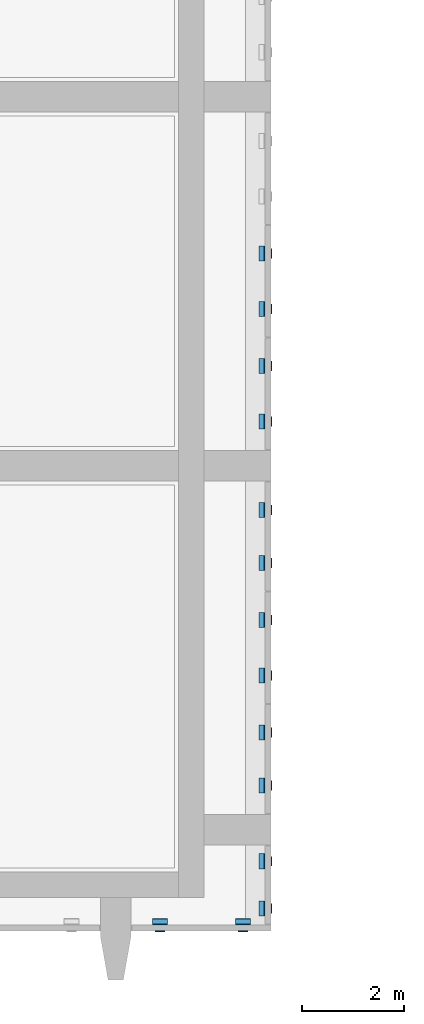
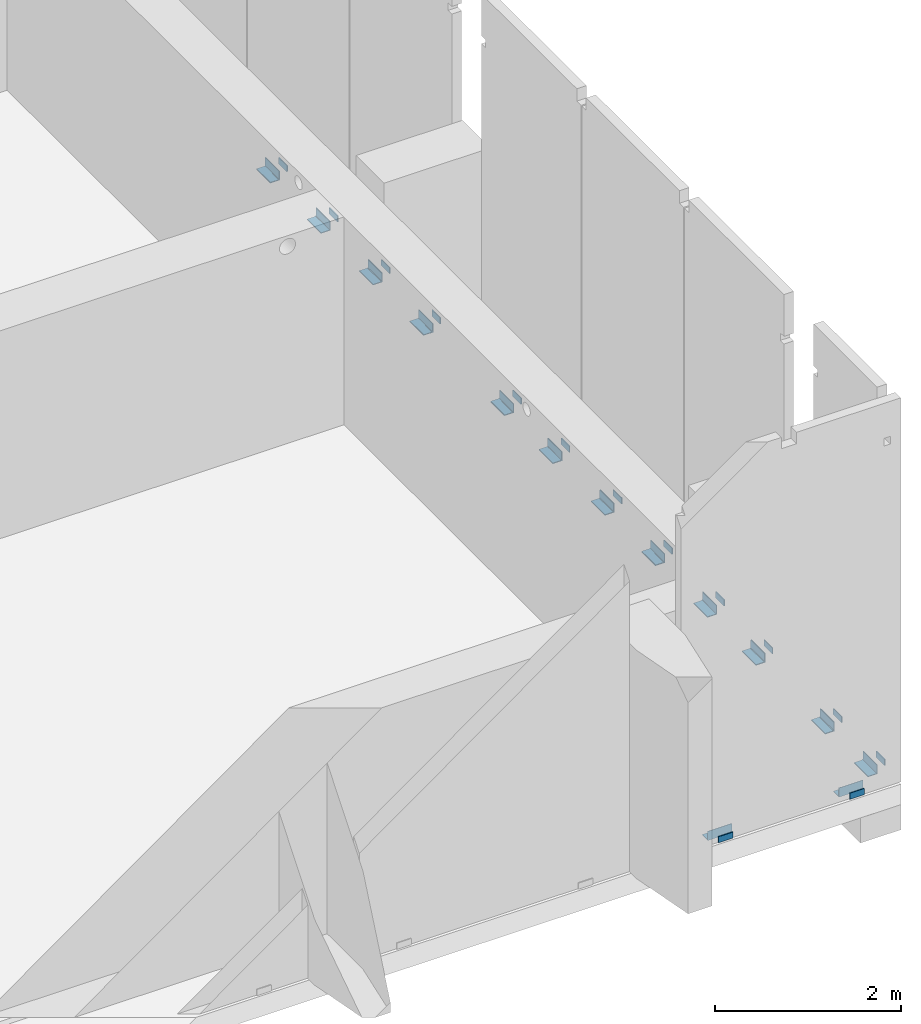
# One storey, part 18 of 31: 28 beams.
"""IFC2X3 building model written with IfcOpenShell, lengths in millimetres."""

from ifc_helpers import new_model, entity, si_unit, converted_unit, derived_unit, direction, frame, frame_2d, origin, origin_2d_with_axis, place, context, subcontext, project, spatial, polyline, circle_curve, parameter, trimmed, segment, composite_curve, rectangle, outline, extrude, source, transform, mapped, material, type_object, type_shapes, element, save


model = new_model("IFC2X3")

# Units and contexts
model_context = context("Model", 3, precision=0.01, world=origin(), true_north=direction((6.12303176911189e-17, 1.0)))
body_context = subcontext(model_context, "Body", "Model", "MODEL_VIEW")
ifc_project = project(units=[si_unit("LENGTHUNIT", "METRE", prefix="MILLI"), si_unit("AREAUNIT", "SQUARE_METRE"), si_unit("VOLUMEUNIT", "CUBIC_METRE"), converted_unit("PLANEANGLEUNIT", "DEGREE", entity("IfcRatioMeasure", 0.0174532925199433), si_unit("PLANEANGLEUNIT", "RADIAN"), dimensions=[0, 0, 0, 0, 0, 0, 0]), si_unit("MASSUNIT", "GRAM", prefix="KILO"), derived_unit("MASSDENSITYUNIT", [(si_unit("MASSUNIT", "GRAM", prefix="KILO"), 1), (si_unit("LENGTHUNIT", "METRE"), -3)]), si_unit("TIMEUNIT", "SECOND"), si_unit("FREQUENCYUNIT", "HERTZ"), si_unit("THERMODYNAMICTEMPERATUREUNIT", "DEGREE_CELSIUS"), derived_unit("THERMALTRANSMITTANCEUNIT", [(si_unit("MASSUNIT", "GRAM", prefix="KILO"), 1), (si_unit("THERMODYNAMICTEMPERATUREUNIT", "KELVIN"), -1), (si_unit("TIMEUNIT", "SECOND"), -3)]), derived_unit("VOLUMETRICFLOWRATEUNIT", [(si_unit("LENGTHUNIT", "METRE"), 3), (si_unit("TIMEUNIT", "SECOND"), -1)]), si_unit("ELECTRICCURRENTUNIT", "AMPERE"), si_unit("ELECTRICVOLTAGEUNIT", "VOLT"), si_unit("POWERUNIT", "WATT"), si_unit("FORCEUNIT", "NEWTON", prefix="KILO"), si_unit("ILLUMINANCEUNIT", "LUX"), si_unit("LUMINOUSFLUXUNIT", "LUMEN"), si_unit("LUMINOUSINTENSITYUNIT", "CANDELA"), derived_unit("USERDEFINED", [(si_unit("MASSUNIT", "GRAM", prefix="KILO"), -1), (si_unit("LENGTHUNIT", "METRE"), -2), (si_unit("TIMEUNIT", "SECOND"), 3), (si_unit("LUMINOUSFLUXUNIT", "LUMEN"), 1)]), derived_unit("LINEARVELOCITYUNIT", [(si_unit("LENGTHUNIT", "METRE"), 1), (si_unit("TIMEUNIT", "SECOND"), -1)]), si_unit("PRESSUREUNIT", "PASCAL"), derived_unit("USERDEFINED", [(si_unit("LENGTHUNIT", "METRE"), -2), (si_unit("MASSUNIT", "GRAM", prefix="KILO"), 1), (si_unit("TIMEUNIT", "SECOND"), -2)])], contexts=[model_context])

# Site, building, storey
site_placement = place(None, origin())
site = spatial("IfcSite", under=ifc_project, at=site_placement, Name="Default", CompositionType="ELEMENT")
building_placement = place(site_placement, origin())
building = spatial("IfcBuilding", under=site, at=building_placement, Name="niet gebruiken", CompositionType="ELEMENT")
storey_placement = place(building_placement, frame((0.0, 0.0, 12000.0)))
storey = spatial("IfcBuildingStorey", under=building, at=storey_placement, Name="03 derde verdieping", CompositionType="ELEMENT", Elevation=12000.0)

# Beams
ifc_material = material(Name="NLRS_h2_staal")
beam_type_1 = type_object("IfcBeamType", Name="NLRS_28.11_SF_WPB_stalen ligger hoekprofiel gelijkzijdig_gen:ligger gelijzijdig hoekprofiel LEQU_120x120x12_!", PredefinedType="BEAM")
beam_1_placement = place(storey_placement, frame((156470.0, 1254.0, 30.0)))
element("IfcBeam", 1, at=beam_1_placement, inside=storey, type_object=beam_type_1, material=ifc_material, Name="NLRS_28.11_SF_WPB_stalen ligger hoekprofiel gelijkzijdig_gen:ligger gelijzijdig hoekprofiel LEQU_120x120x12_!", ObjectType="NLRS_28.11_SF_WPB_stalen ligger hoekprofiel gelijkzijdig_gen:ligger gelijzijdig hoekprofiel LEQU_120x120x12_!", context=body_context, shape_type="SweptSolid", body=[
    extrude(outline(composite_curve([segment(polyline([(-75.5555555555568, -44.4444444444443), (44.444444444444, -44.4444444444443)]), True, "CONTINUOUS"), segment(polyline([(44.444444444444, -44.4444444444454), (44.4444444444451, 75.5555555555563)]), True, "CONTINUOUS"), segment(polyline([(44.4444444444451, 75.5555555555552), (40.4444444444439, 75.5555555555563)]), True, "CONTINUOUS"), segment(trimmed(circle_curve(frame_2d((40.444444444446, 69.5555555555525), x_axis=(0.0, 1.0)), 6.00000000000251), [parameter(0.0)], [parameter(89.9999999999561)], True, "PARAMETER"), True, "CONTINUOUS"), segment(polyline([(34.444444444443, 69.555555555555), (34.4444444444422, -22.4444444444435)]), True, "CONTINUOUS"), segment(trimmed(circle_curve(frame_2d((22.4444444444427, -22.4444444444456), x_axis=(1.0, 0.0)), 11.9999999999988), [parameter(269.999999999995)], [parameter(0.0)], True, "PARAMETER"), False, "CONTINUOUS"), segment(polyline([(22.4444444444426, -34.4444444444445), (-69.5555555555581, -34.4444444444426)]), True, "CONTINUOUS"), segment(trimmed(circle_curve(frame_2d((-69.5555555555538, -40.4444444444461), x_axis=(0.0, 1.0)), 6.00000000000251), [parameter(0.0)], [parameter(89.9999999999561)], True, "PARAMETER"), True, "CONTINUOUS"), segment(polyline([(-75.5555555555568, -40.4444444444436), (-75.5555555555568, -44.4444444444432)]), True, "CONTINUOUS")], self_intersect=False)), frame((0.0, 24.444444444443, -75.5555555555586), z_axis=(1.0, 0.0, 0.0), x_axis=(0.0, 0.0, -1.0)), (0.0, 0.0, 1.0), 300.000000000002),
])
beam_2_placement = place(storey_placement, frame((158100.0, 1254.0, 30.0)))
element("IfcBeam", 2, at=beam_2_placement, inside=storey, type_object=beam_type_1, material=ifc_material, Name="NLRS_28.11_SF_WPB_stalen ligger hoekprofiel gelijkzijdig_gen:ligger gelijzijdig hoekprofiel LEQU_120x120x12_!", ObjectType="NLRS_28.11_SF_WPB_stalen ligger hoekprofiel gelijkzijdig_gen:ligger gelijzijdig hoekprofiel LEQU_120x120x12_!", context=body_context, shape_type="SweptSolid", body=[
    extrude(outline(composite_curve([segment(polyline([(-75.5555555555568, -44.444444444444), (44.444444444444, -44.444444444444)]), True, "CONTINUOUS"), segment(polyline([(44.444444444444, -44.4444444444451), (44.4444444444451, 75.5555555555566)]), True, "CONTINUOUS"), segment(polyline([(44.4444444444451, 75.5555555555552), (40.4444444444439, 75.5555555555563)]), True, "CONTINUOUS"), segment(trimmed(circle_curve(frame_2d((40.444444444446, 69.5555555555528), x_axis=(0.0, 1.0)), 6.00000000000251), [parameter(0.0)], [parameter(89.9999999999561)], True, "PARAMETER"), True, "CONTINUOUS"), segment(polyline([(34.444444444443, 69.5555555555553), (34.4444444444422, -22.4444444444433)]), True, "CONTINUOUS"), segment(trimmed(circle_curve(frame_2d((22.4444444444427, -22.4444444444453), x_axis=(1.0, 0.0)), 11.9999999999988), [parameter(269.999999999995)], [parameter(0.0)], True, "PARAMETER"), False, "CONTINUOUS"), segment(polyline([(22.4444444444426, -34.4444444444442), (-69.5555555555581, -34.4444444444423)]), True, "CONTINUOUS"), segment(trimmed(circle_curve(frame_2d((-69.5555555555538, -40.4444444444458), x_axis=(0.0, 1.0)), 6.00000000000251), [parameter(0.0)], [parameter(89.9999999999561)], True, "PARAMETER"), True, "CONTINUOUS"), segment(polyline([(-75.5555555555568, -40.4444444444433), (-75.5555555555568, -44.444444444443)]), True, "CONTINUOUS")], self_intersect=False)), frame((0.0, 24.4444444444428, -75.5555555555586), z_axis=(1.0, 0.0, 0.0), x_axis=(0.0, 0.0, -1.0)), (0.0, 0.0, 1.0), 300.000000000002),
])
beam_3_placement = place(storey_placement, frame((158660.0, 1404.0, 30.0), z_axis=(0.0, 0.0, 1.0), x_axis=(0.0, 1.0, 0.0)))
element("IfcBeam", 3, at=beam_3_placement, inside=storey, type_object=beam_type_1, material=ifc_material, Name="NLRS_28.11_SF_WPB_stalen ligger hoekprofiel gelijkzijdig_gen:ligger gelijzijdig hoekprofiel LEQU_120x120x12_!", ObjectType="NLRS_28.11_SF_WPB_stalen ligger hoekprofiel gelijkzijdig_gen:ligger gelijzijdig hoekprofiel LEQU_120x120x12_!", context=body_context, shape_type="SweptSolid", body=[
    extrude(outline(composite_curve([segment(polyline([(-75.5555555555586, -44.4444444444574), (44.4444444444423, -44.4444444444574)]), True, "CONTINUOUS"), segment(polyline([(44.4444444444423, -44.4444444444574), (44.4444444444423, 75.5555555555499)]), True, "CONTINUOUS"), segment(polyline([(44.4444444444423, 75.5555555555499), (40.444444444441, 75.5555555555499)]), True, "CONTINUOUS"), segment(trimmed(circle_curve(frame_2d((40.4444444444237, 69.5555555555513), x_axis=(0.0, 1.0)), 5.9999999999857), [parameter(0.0)], [parameter(90.0000000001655)], True, "PARAMETER"), True, "CONTINUOUS"), segment(polyline([(34.4444444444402, 69.5555555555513), (34.4444444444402, -22.4444444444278)]), True, "CONTINUOUS"), segment(trimmed(circle_curve(frame_2d((22.4444444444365, -22.4444444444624), x_axis=(1.0, 0.0)), 12.000000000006), [parameter(270.000000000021)], [parameter(0.0)], True, "PARAMETER"), False, "CONTINUOUS"), segment(polyline([(22.4444444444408, -34.4444444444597), (-69.55555555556, -34.4444444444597)]), True, "CONTINUOUS"), segment(trimmed(circle_curve(frame_2d((-69.5555555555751, -40.4444444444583), x_axis=(0.0, 1.0)), 5.9999999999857), [parameter(0.0)], [parameter(90.0000000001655)], True, "PARAMETER"), True, "CONTINUOUS"), segment(polyline([(-75.5555555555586, -40.4444444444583), (-75.5555555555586, -44.4444444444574)]), True, "CONTINUOUS")], self_intersect=False)), frame((0.0, 24.4444444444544, -75.5555555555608), z_axis=(1.0, 0.0, 0.0), x_axis=(0.0, 0.0, -1.0)), (0.0, 0.0, 1.0), 300.000000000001),
])
beam_4_placement = place(storey_placement, frame((158660.0, 2330.0, 30.0), z_axis=(0.0, 0.0, 1.0), x_axis=(0.0, 1.0, 0.0)))
element("IfcBeam", 4, at=beam_4_placement, inside=storey, type_object=beam_type_1, material=ifc_material, Name="NLRS_28.11_SF_WPB_stalen ligger hoekprofiel gelijkzijdig_gen:ligger gelijzijdig hoekprofiel LEQU_120x120x12_!", ObjectType="NLRS_28.11_SF_WPB_stalen ligger hoekprofiel gelijkzijdig_gen:ligger gelijzijdig hoekprofiel LEQU_120x120x12_!", context=body_context, shape_type="SweptSolid", body=[
    extrude(outline(composite_curve([segment(polyline([(-75.5555555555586, -44.4444444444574), (44.4444444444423, -44.4444444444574)]), True, "CONTINUOUS"), segment(polyline([(44.4444444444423, -44.4444444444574), (44.4444444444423, 75.5555555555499)]), True, "CONTINUOUS"), segment(polyline([(44.4444444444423, 75.5555555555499), (40.444444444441, 75.5555555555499)]), True, "CONTINUOUS"), segment(trimmed(circle_curve(frame_2d((40.4444444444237, 69.5555555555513), x_axis=(0.0, 1.0)), 5.9999999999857), [parameter(0.0)], [parameter(90.0000000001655)], True, "PARAMETER"), True, "CONTINUOUS"), segment(polyline([(34.4444444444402, 69.5555555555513), (34.4444444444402, -22.4444444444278)]), True, "CONTINUOUS"), segment(trimmed(circle_curve(frame_2d((22.4444444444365, -22.4444444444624), x_axis=(1.0, 0.0)), 12.000000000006), [parameter(270.000000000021)], [parameter(0.0)], True, "PARAMETER"), False, "CONTINUOUS"), segment(polyline([(22.4444444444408, -34.4444444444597), (-69.55555555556, -34.4444444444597)]), True, "CONTINUOUS"), segment(trimmed(circle_curve(frame_2d((-69.5555555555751, -40.4444444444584), x_axis=(0.0, 1.0)), 5.9999999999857), [parameter(0.0)], [parameter(90.0000000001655)], True, "PARAMETER"), True, "CONTINUOUS"), segment(polyline([(-75.5555555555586, -40.4444444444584), (-75.5555555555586, -44.4444444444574)]), True, "CONTINUOUS")], self_intersect=False)), frame((0.0, 24.4444444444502, -75.5555555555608), z_axis=(1.0, 0.0, 0.0), x_axis=(0.0, 0.0, -1.0)), (0.0, 0.0, 1.0), 300.000000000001),
])
beam_5_placement = place(storey_placement, frame((158660.0, 3820.0, 30.0), z_axis=(0.0, 0.0, 1.0), x_axis=(0.0, 1.0, 0.0)))
element("IfcBeam", 5, at=beam_5_placement, inside=storey, type_object=beam_type_1, material=ifc_material, Name="NLRS_28.11_SF_WPB_stalen ligger hoekprofiel gelijkzijdig_gen:ligger gelijzijdig hoekprofiel LEQU_120x120x12_!", ObjectType="NLRS_28.11_SF_WPB_stalen ligger hoekprofiel gelijkzijdig_gen:ligger gelijzijdig hoekprofiel LEQU_120x120x12_!", context=body_context, shape_type="SweptSolid", body=[
    extrude(outline(composite_curve([segment(polyline([(-75.5555555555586, -44.4444444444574), (44.4444444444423, -44.4444444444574)]), True, "CONTINUOUS"), segment(polyline([(44.4444444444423, -44.4444444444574), (44.4444444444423, 75.5555555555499)]), True, "CONTINUOUS"), segment(polyline([(44.4444444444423, 75.5555555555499), (40.444444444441, 75.5555555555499)]), True, "CONTINUOUS"), segment(trimmed(circle_curve(frame_2d((40.4444444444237, 69.5555555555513), x_axis=(0.0, 1.0)), 5.9999999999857), [parameter(0.0)], [parameter(90.0000000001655)], True, "PARAMETER"), True, "CONTINUOUS"), segment(polyline([(34.4444444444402, 69.5555555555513), (34.4444444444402, -22.4444444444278)]), True, "CONTINUOUS"), segment(trimmed(circle_curve(frame_2d((22.4444444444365, -22.4444444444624), x_axis=(1.0, 0.0)), 12.000000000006), [parameter(270.000000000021)], [parameter(0.0)], True, "PARAMETER"), False, "CONTINUOUS"), segment(polyline([(22.4444444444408, -34.4444444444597), (-69.55555555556, -34.4444444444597)]), True, "CONTINUOUS"), segment(trimmed(circle_curve(frame_2d((-69.5555555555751, -40.4444444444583), x_axis=(0.0, 1.0)), 5.9999999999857), [parameter(0.0)], [parameter(90.0000000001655)], True, "PARAMETER"), True, "CONTINUOUS"), segment(polyline([(-75.5555555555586, -40.4444444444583), (-75.5555555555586, -44.4444444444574)]), True, "CONTINUOUS")], self_intersect=False)), frame((0.0, 24.4444444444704, -75.5555555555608), z_axis=(1.0, 0.0, 0.0), x_axis=(0.0, 0.0, -1.0)), (0.0, 0.0, 1.0), 300.000000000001),
])
beam_6_placement = place(storey_placement, frame((158660.0, 4860.0, 30.0), z_axis=(0.0, 0.0, 1.0), x_axis=(0.0, 1.0, 0.0)))
element("IfcBeam", 6, at=beam_6_placement, inside=storey, type_object=beam_type_1, material=ifc_material, Name="NLRS_28.11_SF_WPB_stalen ligger hoekprofiel gelijkzijdig_gen:ligger gelijzijdig hoekprofiel LEQU_120x120x12_!", ObjectType="NLRS_28.11_SF_WPB_stalen ligger hoekprofiel gelijkzijdig_gen:ligger gelijzijdig hoekprofiel LEQU_120x120x12_!", context=body_context, shape_type="SweptSolid", body=[
    extrude(outline(composite_curve([segment(polyline([(-75.5555555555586, -44.4444444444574), (44.4444444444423, -44.4444444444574)]), True, "CONTINUOUS"), segment(polyline([(44.4444444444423, -44.4444444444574), (44.4444444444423, 75.5555555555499)]), True, "CONTINUOUS"), segment(polyline([(44.4444444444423, 75.5555555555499), (40.444444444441, 75.5555555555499)]), True, "CONTINUOUS"), segment(trimmed(circle_curve(frame_2d((40.4444444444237, 69.5555555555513), x_axis=(0.0, 1.0)), 5.9999999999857), [parameter(0.0)], [parameter(90.0000000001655)], True, "PARAMETER"), True, "CONTINUOUS"), segment(polyline([(34.4444444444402, 69.5555555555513), (34.4444444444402, -22.4444444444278)]), True, "CONTINUOUS"), segment(trimmed(circle_curve(frame_2d((22.4444444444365, -22.4444444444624), x_axis=(1.0, 0.0)), 12.000000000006), [parameter(270.000000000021)], [parameter(0.0)], True, "PARAMETER"), False, "CONTINUOUS"), segment(polyline([(22.4444444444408, -34.4444444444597), (-69.55555555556, -34.4444444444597)]), True, "CONTINUOUS"), segment(trimmed(circle_curve(frame_2d((-69.5555555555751, -40.4444444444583), x_axis=(0.0, 1.0)), 5.9999999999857), [parameter(0.0)], [parameter(90.0000000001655)], True, "PARAMETER"), True, "CONTINUOUS"), segment(polyline([(-75.5555555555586, -40.4444444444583), (-75.5555555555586, -44.4444444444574)]), True, "CONTINUOUS")], self_intersect=False)), frame((0.0, 24.4444444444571, -75.5555555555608), z_axis=(1.0, 0.0, 0.0), x_axis=(0.0, 0.0, -1.0)), (0.0, 0.0, 1.0), 300.000000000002),
])
beam_7_placement = place(storey_placement, frame((158660.0, 8190.0, 30.0), z_axis=(0.0, 0.0, 1.0), x_axis=(0.0, 1.0, 0.0)))
element("IfcBeam", 7, at=beam_7_placement, inside=storey, type_object=beam_type_1, material=ifc_material, Name="NLRS_28.11_SF_WPB_stalen ligger hoekprofiel gelijkzijdig_gen:ligger gelijzijdig hoekprofiel LEQU_120x120x12_!", ObjectType="NLRS_28.11_SF_WPB_stalen ligger hoekprofiel gelijkzijdig_gen:ligger gelijzijdig hoekprofiel LEQU_120x120x12_!", context=body_context, shape_type="SweptSolid", body=[
    extrude(outline(composite_curve([segment(polyline([(-75.5555555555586, -44.4444444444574), (44.4444444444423, -44.4444444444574)]), True, "CONTINUOUS"), segment(polyline([(44.4444444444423, -44.4444444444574), (44.4444444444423, 75.5555555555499)]), True, "CONTINUOUS"), segment(polyline([(44.4444444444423, 75.5555555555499), (40.444444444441, 75.5555555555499)]), True, "CONTINUOUS"), segment(trimmed(circle_curve(frame_2d((40.4444444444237, 69.5555555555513), x_axis=(0.0, 1.0)), 5.9999999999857), [parameter(0.0)], [parameter(90.0000000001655)], True, "PARAMETER"), True, "CONTINUOUS"), segment(polyline([(34.4444444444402, 69.5555555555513), (34.4444444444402, -22.4444444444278)]), True, "CONTINUOUS"), segment(trimmed(circle_curve(frame_2d((22.4444444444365, -22.4444444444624), x_axis=(1.0, 0.0)), 12.000000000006), [parameter(270.000000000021)], [parameter(0.0)], True, "PARAMETER"), False, "CONTINUOUS"), segment(polyline([(22.4444444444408, -34.4444444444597), (-69.55555555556, -34.4444444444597)]), True, "CONTINUOUS"), segment(trimmed(circle_curve(frame_2d((-69.5555555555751, -40.4444444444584), x_axis=(0.0, 1.0)), 5.9999999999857), [parameter(0.0)], [parameter(90.0000000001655)], True, "PARAMETER"), True, "CONTINUOUS"), segment(polyline([(-75.5555555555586, -40.4444444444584), (-75.5555555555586, -44.4444444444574)]), True, "CONTINUOUS")], self_intersect=False)), frame((0.0, 24.4444444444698, -75.5555555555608), z_axis=(1.0, 0.0, 0.0), x_axis=(0.0, 0.0, -1.0)), (0.0, 0.0, 1.0), 300.000000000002),
])
beam_8_placement = place(storey_placement, frame((158660.0, 9230.0, 30.0), z_axis=(0.0, 0.0, 1.0), x_axis=(0.0, 1.0, 0.0)))
element("IfcBeam", 8, at=beam_8_placement, inside=storey, type_object=beam_type_1, material=ifc_material, Name="NLRS_28.11_SF_WPB_stalen ligger hoekprofiel gelijkzijdig_gen:ligger gelijzijdig hoekprofiel LEQU_120x120x12_!", ObjectType="NLRS_28.11_SF_WPB_stalen ligger hoekprofiel gelijkzijdig_gen:ligger gelijzijdig hoekprofiel LEQU_120x120x12_!", context=body_context, shape_type="SweptSolid", body=[
    extrude(outline(composite_curve([segment(polyline([(-75.5555555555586, -44.4444444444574), (44.4444444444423, -44.4444444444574)]), True, "CONTINUOUS"), segment(polyline([(44.4444444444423, -44.4444444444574), (44.4444444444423, 75.5555555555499)]), True, "CONTINUOUS"), segment(polyline([(44.4444444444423, 75.5555555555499), (40.444444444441, 75.5555555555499)]), True, "CONTINUOUS"), segment(trimmed(circle_curve(frame_2d((40.4444444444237, 69.5555555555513), x_axis=(0.0, 1.0)), 5.9999999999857), [parameter(0.0)], [parameter(90.0000000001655)], True, "PARAMETER"), True, "CONTINUOUS"), segment(polyline([(34.4444444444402, 69.5555555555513), (34.4444444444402, -22.4444444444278)]), True, "CONTINUOUS"), segment(trimmed(circle_curve(frame_2d((22.4444444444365, -22.4444444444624), x_axis=(1.0, 0.0)), 12.000000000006), [parameter(270.000000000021)], [parameter(0.0)], True, "PARAMETER"), False, "CONTINUOUS"), segment(polyline([(22.4444444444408, -34.4444444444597), (-69.55555555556, -34.4444444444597)]), True, "CONTINUOUS"), segment(trimmed(circle_curve(frame_2d((-69.5555555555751, -40.4444444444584), x_axis=(0.0, 1.0)), 5.9999999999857), [parameter(0.0)], [parameter(90.0000000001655)], True, "PARAMETER"), True, "CONTINUOUS"), segment(polyline([(-75.5555555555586, -40.4444444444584), (-75.5555555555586, -44.4444444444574)]), True, "CONTINUOUS")], self_intersect=False)), frame((0.0, 24.4444444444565, -75.5555555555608), z_axis=(1.0, 0.0, 0.0), x_axis=(0.0, 0.0, -1.0)), (0.0, 0.0, 1.0), 300.000000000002),
])
beam_9_placement = place(storey_placement, frame((158660.0, 5980.0, 30.0), z_axis=(0.0, 0.0, 1.0), x_axis=(0.0, 1.0, 0.0)))
element("IfcBeam", 9, at=beam_9_placement, inside=storey, type_object=beam_type_1, material=ifc_material, Name="NLRS_28.11_SF_WPB_stalen ligger hoekprofiel gelijkzijdig_gen:ligger gelijzijdig hoekprofiel LEQU_120x120x12_!", ObjectType="NLRS_28.11_SF_WPB_stalen ligger hoekprofiel gelijkzijdig_gen:ligger gelijzijdig hoekprofiel LEQU_120x120x12_!", context=body_context, shape_type="SweptSolid", body=[
    extrude(outline(composite_curve([segment(polyline([(-75.5555555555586, -44.4444444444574), (44.4444444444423, -44.4444444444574)]), True, "CONTINUOUS"), segment(polyline([(44.4444444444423, -44.4444444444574), (44.4444444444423, 75.5555555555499)]), True, "CONTINUOUS"), segment(polyline([(44.4444444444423, 75.5555555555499), (40.444444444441, 75.5555555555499)]), True, "CONTINUOUS"), segment(trimmed(circle_curve(frame_2d((40.4444444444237, 69.5555555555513), x_axis=(0.0, 1.0)), 5.9999999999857), [parameter(0.0)], [parameter(90.0000000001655)], True, "PARAMETER"), True, "CONTINUOUS"), segment(polyline([(34.4444444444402, 69.5555555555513), (34.4444444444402, -22.4444444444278)]), True, "CONTINUOUS"), segment(trimmed(circle_curve(frame_2d((22.4444444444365, -22.4444444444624), x_axis=(1.0, 0.0)), 12.000000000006), [parameter(270.000000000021)], [parameter(0.0)], True, "PARAMETER"), False, "CONTINUOUS"), segment(polyline([(22.4444444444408, -34.4444444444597), (-69.55555555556, -34.4444444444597)]), True, "CONTINUOUS"), segment(trimmed(circle_curve(frame_2d((-69.5555555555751, -40.4444444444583), x_axis=(0.0, 1.0)), 5.9999999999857), [parameter(0.0)], [parameter(90.0000000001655)], True, "PARAMETER"), True, "CONTINUOUS"), segment(polyline([(-75.5555555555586, -40.4444444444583), (-75.5555555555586, -44.4444444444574)]), True, "CONTINUOUS")], self_intersect=False)), frame((0.0, 24.4444444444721, -75.5555555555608), z_axis=(1.0, 0.0, 0.0), x_axis=(0.0, 0.0, -1.0)), (0.0, 0.0, 1.0), 300.000000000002),
])
beam_10_placement = place(storey_placement, frame((158660.0, 7070.0, 30.0), z_axis=(0.0, 0.0, 1.0), x_axis=(0.0, 1.0, 0.0)))
element("IfcBeam", 10, at=beam_10_placement, inside=storey, type_object=beam_type_1, material=ifc_material, Name="NLRS_28.11_SF_WPB_stalen ligger hoekprofiel gelijkzijdig_gen:ligger gelijzijdig hoekprofiel LEQU_120x120x12_!", ObjectType="NLRS_28.11_SF_WPB_stalen ligger hoekprofiel gelijkzijdig_gen:ligger gelijzijdig hoekprofiel LEQU_120x120x12_!", context=body_context, shape_type="SweptSolid", body=[
    extrude(outline(composite_curve([segment(polyline([(-75.5555555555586, -44.4444444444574), (44.4444444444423, -44.4444444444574)]), True, "CONTINUOUS"), segment(polyline([(44.4444444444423, -44.4444444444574), (44.4444444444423, 75.5555555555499)]), True, "CONTINUOUS"), segment(polyline([(44.4444444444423, 75.5555555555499), (40.444444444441, 75.5555555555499)]), True, "CONTINUOUS"), segment(trimmed(circle_curve(frame_2d((40.4444444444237, 69.5555555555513), x_axis=(0.0, 1.0)), 5.9999999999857), [parameter(0.0)], [parameter(90.0000000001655)], True, "PARAMETER"), True, "CONTINUOUS"), segment(polyline([(34.4444444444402, 69.5555555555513), (34.4444444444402, -22.4444444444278)]), True, "CONTINUOUS"), segment(trimmed(circle_curve(frame_2d((22.4444444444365, -22.4444444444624), x_axis=(1.0, 0.0)), 12.000000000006), [parameter(270.000000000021)], [parameter(0.0)], True, "PARAMETER"), False, "CONTINUOUS"), segment(polyline([(22.4444444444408, -34.4444444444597), (-69.55555555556, -34.4444444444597)]), True, "CONTINUOUS"), segment(trimmed(circle_curve(frame_2d((-69.5555555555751, -40.4444444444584), x_axis=(0.0, 1.0)), 5.9999999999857), [parameter(0.0)], [parameter(90.0000000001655)], True, "PARAMETER"), True, "CONTINUOUS"), segment(polyline([(-75.5555555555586, -40.4444444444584), (-75.5555555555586, -44.4444444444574)]), True, "CONTINUOUS")], self_intersect=False)), frame((0.0, 24.4444444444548, -75.5555555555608), z_axis=(1.0, 0.0, 0.0), x_axis=(0.0, 0.0, -1.0)), (0.0, 0.0, 1.0), 300.000000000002),
])
beam_11_placement = place(storey_placement, frame((158660.0, 10970.0, 30.0), z_axis=(0.0, 0.0, 1.0), x_axis=(0.0, 1.0, 0.0)))
element("IfcBeam", 11, at=beam_11_placement, inside=storey, type_object=beam_type_1, material=ifc_material, Name="NLRS_28.11_SF_WPB_stalen ligger hoekprofiel gelijkzijdig_gen:ligger gelijzijdig hoekprofiel LEQU_120x120x12_!", ObjectType="NLRS_28.11_SF_WPB_stalen ligger hoekprofiel gelijkzijdig_gen:ligger gelijzijdig hoekprofiel LEQU_120x120x12_!", context=body_context, shape_type="SweptSolid", body=[
    extrude(outline(composite_curve([segment(polyline([(-75.5555555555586, -44.4444444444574), (44.4444444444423, -44.4444444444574)]), True, "CONTINUOUS"), segment(polyline([(44.4444444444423, -44.4444444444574), (44.4444444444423, 75.5555555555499)]), True, "CONTINUOUS"), segment(polyline([(44.4444444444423, 75.5555555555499), (40.444444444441, 75.5555555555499)]), True, "CONTINUOUS"), segment(trimmed(circle_curve(frame_2d((40.4444444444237, 69.5555555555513), x_axis=(0.0, 1.0)), 5.9999999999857), [parameter(0.0)], [parameter(90.0000000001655)], True, "PARAMETER"), True, "CONTINUOUS"), segment(polyline([(34.4444444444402, 69.5555555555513), (34.4444444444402, -22.4444444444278)]), True, "CONTINUOUS"), segment(trimmed(circle_curve(frame_2d((22.4444444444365, -22.4444444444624), x_axis=(1.0, 0.0)), 12.000000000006), [parameter(270.000000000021)], [parameter(0.0)], True, "PARAMETER"), False, "CONTINUOUS"), segment(polyline([(22.4444444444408, -34.4444444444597), (-69.55555555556, -34.4444444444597)]), True, "CONTINUOUS"), segment(trimmed(circle_curve(frame_2d((-69.5555555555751, -40.4444444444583), x_axis=(0.0, 1.0)), 5.9999999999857), [parameter(0.0)], [parameter(90.0000000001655)], True, "PARAMETER"), True, "CONTINUOUS"), segment(polyline([(-75.5555555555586, -40.4444444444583), (-75.5555555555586, -44.4444444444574)]), True, "CONTINUOUS")], self_intersect=False)), frame((0.0, 24.4444444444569, -75.5555555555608), z_axis=(1.0, 0.0, 0.0), x_axis=(0.0, 0.0, -1.0)), (0.0, 0.0, 1.0), 300.000000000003),
])
beam_12_placement = place(storey_placement, frame((158660.0, 12060.0, 30.0), z_axis=(0.0, 0.0, 1.0), x_axis=(0.0, 1.0, 0.0)))
element("IfcBeam", 12, at=beam_12_placement, inside=storey, type_object=beam_type_1, material=ifc_material, Name="NLRS_28.11_SF_WPB_stalen ligger hoekprofiel gelijkzijdig_gen:ligger gelijzijdig hoekprofiel LEQU_120x120x12_!", ObjectType="NLRS_28.11_SF_WPB_stalen ligger hoekprofiel gelijkzijdig_gen:ligger gelijzijdig hoekprofiel LEQU_120x120x12_!", context=body_context, shape_type="SweptSolid", body=[
    extrude(outline(composite_curve([segment(polyline([(-75.5555555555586, -44.4444444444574), (44.4444444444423, -44.4444444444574)]), True, "CONTINUOUS"), segment(polyline([(44.4444444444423, -44.4444444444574), (44.4444444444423, 75.5555555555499)]), True, "CONTINUOUS"), segment(polyline([(44.4444444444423, 75.5555555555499), (40.444444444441, 75.5555555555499)]), True, "CONTINUOUS"), segment(trimmed(circle_curve(frame_2d((40.4444444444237, 69.5555555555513), x_axis=(0.0, 1.0)), 5.9999999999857), [parameter(0.0)], [parameter(90.0000000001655)], True, "PARAMETER"), True, "CONTINUOUS"), segment(polyline([(34.4444444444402, 69.5555555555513), (34.4444444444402, -22.4444444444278)]), True, "CONTINUOUS"), segment(trimmed(circle_curve(frame_2d((22.4444444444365, -22.4444444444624), x_axis=(1.0, 0.0)), 12.000000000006), [parameter(270.000000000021)], [parameter(0.0)], True, "PARAMETER"), False, "CONTINUOUS"), segment(polyline([(22.4444444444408, -34.4444444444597), (-69.55555555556, -34.4444444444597)]), True, "CONTINUOUS"), segment(trimmed(circle_curve(frame_2d((-69.5555555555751, -40.4444444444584), x_axis=(0.0, 1.0)), 5.9999999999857), [parameter(0.0)], [parameter(90.0000000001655)], True, "PARAMETER"), True, "CONTINUOUS"), segment(polyline([(-75.5555555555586, -40.4444444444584), (-75.5555555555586, -44.4444444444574)]), True, "CONTINUOUS")], self_intersect=False)), frame((0.0, 24.4444444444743, -75.5555555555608), z_axis=(1.0, 0.0, 0.0), x_axis=(0.0, 0.0, -1.0)), (0.0, 0.0, 1.0), 300.000000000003),
])
beam_13_placement = place(storey_placement, frame((158660.0, 13180.0, 30.0), z_axis=(0.0, 0.0, 1.0), x_axis=(0.0, 1.0, 0.0)))
element("IfcBeam", 13, at=beam_13_placement, inside=storey, type_object=beam_type_1, material=ifc_material, Name="NLRS_28.11_SF_WPB_stalen ligger hoekprofiel gelijkzijdig_gen:ligger gelijzijdig hoekprofiel LEQU_120x120x12_!", ObjectType="NLRS_28.11_SF_WPB_stalen ligger hoekprofiel gelijkzijdig_gen:ligger gelijzijdig hoekprofiel LEQU_120x120x12_!", context=body_context, shape_type="SweptSolid", body=[
    extrude(outline(composite_curve([segment(polyline([(-75.5555555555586, -44.4444444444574), (44.4444444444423, -44.4444444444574)]), True, "CONTINUOUS"), segment(polyline([(44.4444444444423, -44.4444444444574), (44.4444444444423, 75.5555555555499)]), True, "CONTINUOUS"), segment(polyline([(44.4444444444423, 75.5555555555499), (40.444444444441, 75.5555555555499)]), True, "CONTINUOUS"), segment(trimmed(circle_curve(frame_2d((40.4444444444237, 69.5555555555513), x_axis=(0.0, 1.0)), 5.9999999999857), [parameter(0.0)], [parameter(90.0000000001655)], True, "PARAMETER"), True, "CONTINUOUS"), segment(polyline([(34.4444444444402, 69.5555555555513), (34.4444444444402, -22.4444444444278)]), True, "CONTINUOUS"), segment(trimmed(circle_curve(frame_2d((22.4444444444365, -22.4444444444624), x_axis=(1.0, 0.0)), 12.000000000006), [parameter(270.000000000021)], [parameter(0.0)], True, "PARAMETER"), False, "CONTINUOUS"), segment(polyline([(22.4444444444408, -34.4444444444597), (-69.55555555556, -34.4444444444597)]), True, "CONTINUOUS"), segment(trimmed(circle_curve(frame_2d((-69.5555555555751, -40.4444444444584), x_axis=(0.0, 1.0)), 5.9999999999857), [parameter(0.0)], [parameter(90.0000000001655)], True, "PARAMETER"), True, "CONTINUOUS"), segment(polyline([(-75.5555555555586, -40.4444444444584), (-75.5555555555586, -44.4444444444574)]), True, "CONTINUOUS")], self_intersect=False)), frame((0.0, 24.4444444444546, -75.5555555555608), z_axis=(1.0, 0.0, 0.0), x_axis=(0.0, 0.0, -1.0)), (0.0, 0.0, 1.0), 300.000000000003),
])
beam_14_placement = place(storey_placement, frame((158660.0, 14270.0, 30.0), z_axis=(0.0, 0.0, 1.0), x_axis=(0.0, 1.0, 0.0)))
element("IfcBeam", 14, at=beam_14_placement, inside=storey, type_object=beam_type_1, material=ifc_material, Name="NLRS_28.11_SF_WPB_stalen ligger hoekprofiel gelijkzijdig_gen:ligger gelijzijdig hoekprofiel LEQU_120x120x12_!", ObjectType="NLRS_28.11_SF_WPB_stalen ligger hoekprofiel gelijkzijdig_gen:ligger gelijzijdig hoekprofiel LEQU_120x120x12_!", context=body_context, shape_type="SweptSolid", body=[
    extrude(outline(composite_curve([segment(polyline([(-75.5555555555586, -44.4444444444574), (44.4444444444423, -44.4444444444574)]), True, "CONTINUOUS"), segment(polyline([(44.4444444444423, -44.4444444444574), (44.4444444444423, 75.5555555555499)]), True, "CONTINUOUS"), segment(polyline([(44.4444444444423, 75.5555555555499), (40.444444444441, 75.5555555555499)]), True, "CONTINUOUS"), segment(trimmed(circle_curve(frame_2d((40.4444444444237, 69.5555555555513), x_axis=(0.0, 1.0)), 5.9999999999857), [parameter(0.0)], [parameter(90.0000000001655)], True, "PARAMETER"), True, "CONTINUOUS"), segment(polyline([(34.4444444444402, 69.5555555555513), (34.4444444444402, -22.4444444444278)]), True, "CONTINUOUS"), segment(trimmed(circle_curve(frame_2d((22.4444444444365, -22.4444444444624), x_axis=(1.0, 0.0)), 12.000000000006), [parameter(270.000000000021)], [parameter(0.0)], True, "PARAMETER"), False, "CONTINUOUS"), segment(polyline([(22.4444444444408, -34.4444444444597), (-69.55555555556, -34.4444444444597)]), True, "CONTINUOUS"), segment(trimmed(circle_curve(frame_2d((-69.5555555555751, -40.4444444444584), x_axis=(0.0, 1.0)), 5.9999999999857), [parameter(0.0)], [parameter(90.0000000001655)], True, "PARAMETER"), True, "CONTINUOUS"), segment(polyline([(-75.5555555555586, -40.4444444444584), (-75.5555555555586, -44.4444444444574)]), True, "CONTINUOUS")], self_intersect=False)), frame((0.0, 24.444444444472, -75.5555555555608), z_axis=(1.0, 0.0, 0.0), x_axis=(0.0, 0.0, -1.0)), (0.0, 0.0, 1.0), 300.000000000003),
])
beam_type_2 = type_object("IfcBeamType", Name="ligger stripstaal RECT_80x12 gedraaid_!", PredefinedType="BEAM", material=ifc_material)
shared_shape = source(origin(), body_context, "Body", "SweptSolid", [
    extrude(rectangle(XDim=179.99999999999, YDim=12.0, at=origin_2d_with_axis()), frame((0.0, 0.0, -40.0), z_axis=(0.0, 0.0, 1.0), x_axis=(-1.0, 0.0, 0.0)), (0.0, 0.0, 1.0), 80.0),
    extrude(rectangle(XDim=179.99999999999, YDim=12.0, at=origin_2d_with_axis()), frame((0.0, 0.0, -40.0), z_axis=(0.0, 0.0, 1.0), x_axis=(-1.0, 0.0, 0.0)), (0.0, 0.0, 1.0), 80.0),
])
type_shapes(beam_type_2, [shared_shape])
for number, where, z_axis, x_axis in (
    (15, (156620.0, 1108.0, -20.0), (0.0, 0.0, 1.0), (-1.0, 0.0, 0.0)),
    (16, (158250.0, 1108.0, -20.0), (0.0, 0.0, 1.0), (-1.0, 0.0, 0.0)),
    (17, (158806.0, 1554.0, -20.0), (0.0, 0.0, 1.0), (0.0, -1.0, 0.0)),
    (18, (158806.0, 2480.0, -20.0), (0.0, 0.0, 1.0), (0.0, -1.0, 0.0)),
    (19, (158806.0, 3970.0, -20.0), (0.0, 0.0, 1.0), (0.0, -1.0, 0.0)),
    (20, (158806.0, 5010.0, -20.0), (0.0, 0.0, 1.0), (0.0, -1.0, 0.0)),
    (21, (158806.0, 8340.0, -20.0), (0.0, 0.0, 1.0), (0.0, -1.0, 0.0)),
    (22, (158806.0, 9380.0, -20.0), (0.0, 0.0, 1.0), (0.0, -1.0, 0.0)),
    (23, (158806.0, 6130.0, -20.0), (0.0, 0.0, 1.0), (0.0, -1.0, 0.0)),
    (24, (158806.0, 7220.0, -20.0), (0.0, 0.0, 1.0), (0.0, -1.0, 0.0)),
    (25, (158806.0, 11120.0, -20.0), (0.0, 0.0, 1.0), (0.0, -1.0, 0.0)),
    (26, (158806.0, 12210.0, -20.0), (0.0, 0.0, 1.0), (0.0, -1.0, 0.0)),
    (27, (158806.0, 13330.0, -20.0), (0.0, 0.0, 1.0), (0.0, -1.0, 0.0)),
    (28, (158806.0, 14420.0, -20.0), (0.0, 0.0, 1.0), (0.0, -1.0, 0.0)),
):
    element("IfcBeam", number, at=place(storey_placement, frame(where, z_axis=z_axis, x_axis=x_axis)), inside=storey, type_object=beam_type_2, material=ifc_material, Name="NLRS_28.11_SF_WPB_stalen ligger stripstaal_gen:ligger stripstaal RECT_80x12 gedraaid_!", ObjectType="ligger stripstaal RECT_80x12 gedraaid_!", context=body_context, shape_type="MappedRepresentation", body=[
        mapped(shared_shape, transform((0.0, 0.0, 0.0), scale=1.0)),
    ])

save(model, "model.ifc")
